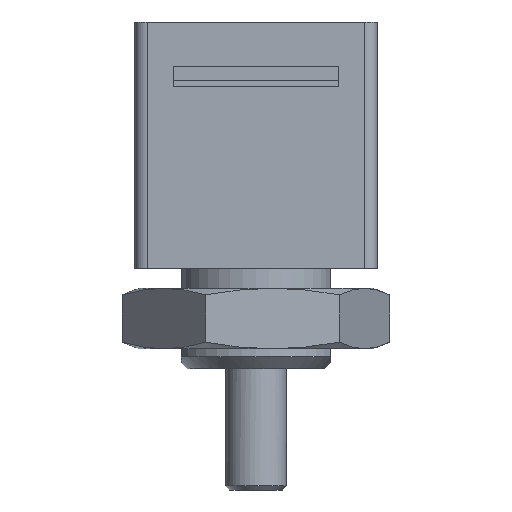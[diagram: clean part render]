
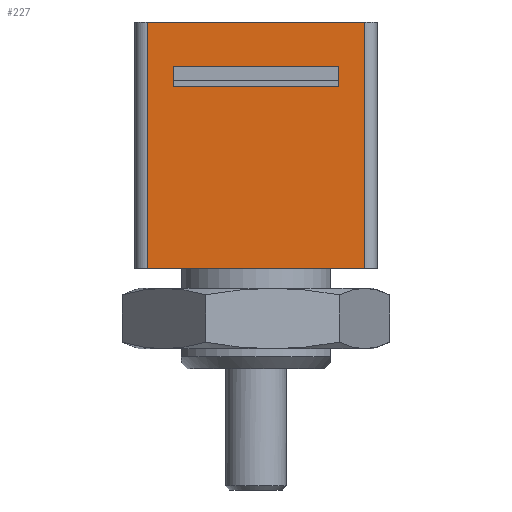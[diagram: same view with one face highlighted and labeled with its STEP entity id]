
A CAD part, front view. The second image highlights one B-rep face of the part: STEP entity #227.
In plain terms, the highlighted planar face has unit normal (0, -1, 0).
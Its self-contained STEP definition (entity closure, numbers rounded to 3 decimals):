
#227=ADVANCED_FACE('',(#411,#412),#413,.T.);
#411=FACE_OUTER_BOUND('',#614,.T.);
#412=FACE_BOUND('',#615,.T.);
#413=PLANE('',#616);
#614=EDGE_LOOP('',(#905,#906,#907,#908));
#615=EDGE_LOOP('',(#909,#910,#911,#912));
#616=AXIS2_PLACEMENT_3D('',#913,#914,#915);
#905=ORIENTED_EDGE('',*,*,#1254,.F.);
#906=ORIENTED_EDGE('',*,*,#1188,.T.);
#907=ORIENTED_EDGE('',*,*,#1229,.F.);
#908=ORIENTED_EDGE('',*,*,#1255,.T.);
#909=ORIENTED_EDGE('',*,*,#1252,.T.);
#910=ORIENTED_EDGE('',*,*,#1246,.F.);
#911=ORIENTED_EDGE('',*,*,#1256,.T.);
#912=ORIENTED_EDGE('',*,*,#1223,.T.);
#913=CARTESIAN_POINT('',(0.,-3.0,3.2));
#914=DIRECTION('',(0.,-1.0,0.0));
#915=DIRECTION('',(0.0,0.0,-1.0));
#1188=EDGE_CURVE('',#1364,#1361,#1365,.T.);
#1223=EDGE_CURVE('',#1416,#1417,#1418,.T.);
#1229=EDGE_CURVE('',#1425,#1361,#1427,.T.);
#1246=EDGE_CURVE('',#1450,#1452,#1453,.T.);
#1252=EDGE_CURVE('',#1417,#1452,#1460,.T.);
#1254=EDGE_CURVE('',#1364,#1462,#1463,.T.);
#1255=EDGE_CURVE('',#1425,#1462,#1464,.T.);
#1256=EDGE_CURVE('',#1450,#1416,#1465,.T.);
#1361=VERTEX_POINT('',#1610);
#1364=VERTEX_POINT('',#1613);
#1365=LINE('',#1614,#1615);
#1416=VERTEX_POINT('',#1681);
#1417=VERTEX_POINT('',#1682);
#1418=LINE('',#1683,#1684);
#1425=VERTEX_POINT('',#1694);
#1427=LINE('',#1696,#1697);
#1450=VERTEX_POINT('',#1727);
#1452=VERTEX_POINT('',#1730);
#1453=LINE('',#1731,#1732);
#1460=LINE('',#1742,#1743);
#1462=VERTEX_POINT('',#1745);
#1463=LINE('',#1746,#1747);
#1464=LINE('',#1748,#1749);
#1465=LINE('',#1750,#1751);
#1610=CARTESIAN_POINT('',(-2.7,-3.0,2.5));
#1613=CARTESIAN_POINT('',(-2.7,-3.0,8.6));
#1614=CARTESIAN_POINT('',(-2.7,-3.0,2.5));
#1615=VECTOR('',#1945,1.0);
#1681=CARTESIAN_POINT('',(-2.05,-3.0,7.5));
#1682=CARTESIAN_POINT('',(2.05,-3.0,7.5));
#1683=CARTESIAN_POINT('',(0.,-3.0,7.5));
#1684=VECTOR('',#1990,1.0);
#1694=CARTESIAN_POINT('',(2.7,-3.0,2.5));
#1696=CARTESIAN_POINT('',(0.0,-3.0,2.5));
#1697=VECTOR('',#1997,1.0);
#1727=CARTESIAN_POINT('',(-2.05,-3.0,7.0));
#1730=CARTESIAN_POINT('',(2.05,-3.0,7.0));
#1731=CARTESIAN_POINT('',(0.0,-3.0,7.0));
#1732=VECTOR('',#2015,1.0);
#1742=CARTESIAN_POINT('',(2.05,-3.0,7.0));
#1743=VECTOR('',#2019,1.0);
#1745=CARTESIAN_POINT('',(2.7,-3.0,8.6));
#1746=CARTESIAN_POINT('',(2.65,-3.0,8.6));
#1747=VECTOR('',#2020,1.0);
#1748=CARTESIAN_POINT('',(2.7,-3.0,2.5));
#1749=VECTOR('',#2021,1.0);
#1750=CARTESIAN_POINT('',(-2.05,-3.0,7.0));
#1751=VECTOR('',#2022,1.0);
#1945=DIRECTION('',(0.0,0.0,-1.0));
#1990=DIRECTION('',(1.0,0.,0.0));
#1997=DIRECTION('',(-1.0,0.0,0.0));
#2015=DIRECTION('',(1.0,0.0,0.0));
#2019=DIRECTION('',(0.0,0.0,-1.0));
#2020=DIRECTION('',(1.0,0.,0.0));
#2021=DIRECTION('',(0.0,0.0,1.0));
#2022=DIRECTION('',(0.0,0.0,1.0));
